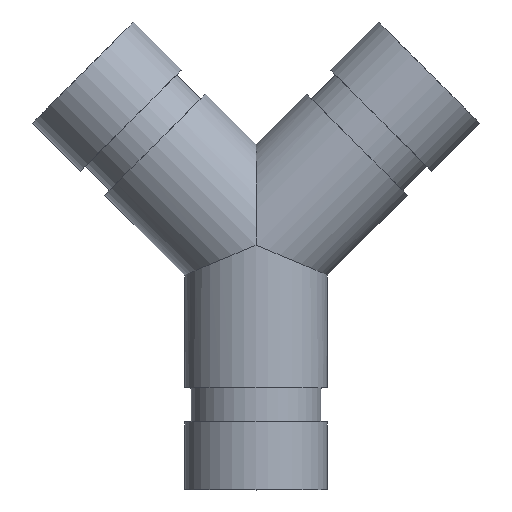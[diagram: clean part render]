
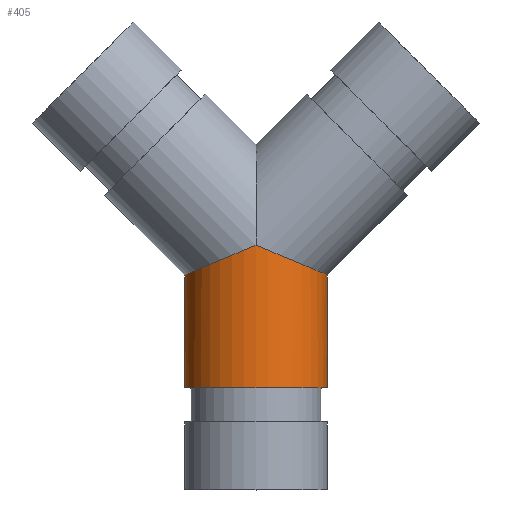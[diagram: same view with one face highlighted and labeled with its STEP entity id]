
A CAD part, top view. The second image highlights one B-rep face of the part: STEP entity #405.
In plain terms, the highlighted cylindrical face has radius 16.701 mm (diameter 33.401 mm), a full revolution.
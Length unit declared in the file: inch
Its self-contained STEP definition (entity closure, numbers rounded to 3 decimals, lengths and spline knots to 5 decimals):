
#81=FACE_OUTER_BOUND('',#109,.T.);
#109=EDGE_LOOP('',(#342,#343,#344,#345,#346,#347));
#119=ELLIPSE('',#471,0.71167,0.6575);
#120=ELLIPSE('',#472,0.71167,0.6575);
#123=ELLIPSE('',#481,0.71167,0.6575);
#135=LINE('',#753,#147);
#147=VECTOR('',#621,0.6575);
#153=CIRCLE('',#440,0.6575);
#183=VERTEX_POINT('',#676);
#202=VERTEX_POINT('',#730);
#204=VERTEX_POINT('',#733);
#205=VERTEX_POINT('',#736);
#219=EDGE_CURVE('',#183,#183,#153,.T.);
#244=EDGE_CURVE('',#204,#202,#119,.T.);
#246=EDGE_CURVE('',#205,#204,#120,.T.);
#254=EDGE_CURVE('',#205,#202,#123,.T.);
#255=EDGE_CURVE('',#183,#204,#135,.T.);
#342=ORIENTED_EDGE('',*,*,#219,.T.);
#343=ORIENTED_EDGE('',*,*,#255,.T.);
#344=ORIENTED_EDGE('',*,*,#244,.T.);
#345=ORIENTED_EDGE('',*,*,#254,.F.);
#346=ORIENTED_EDGE('',*,*,#246,.T.);
#347=ORIENTED_EDGE('',*,*,#255,.F.);
#363=CYLINDRICAL_SURFACE('',#482,0.6575);
#405=ADVANCED_FACE('',(#81),#363,.T.);
#440=AXIS2_PLACEMENT_3D('',#677,#526,#527);
#471=AXIS2_PLACEMENT_3D('',#734,#593,#594);
#472=AXIS2_PLACEMENT_3D('',#737,#596,#597);
#481=AXIS2_PLACEMENT_3D('',#751,#617,#618);
#482=AXIS2_PLACEMENT_3D('',#752,#619,#620);
#526=DIRECTION('center_axis',(0.,1.,0.));
#527=DIRECTION('ref_axis',(1.,0.,0.));
#593=DIRECTION('center_axis',(0.383,-0.924,0.));
#594=DIRECTION('ref_axis',(0.924,0.383,0.));
#596=DIRECTION('center_axis',(0.383,-0.924,0.));
#597=DIRECTION('ref_axis',(0.924,0.383,0.));
#617=DIRECTION('center_axis',(0.383,0.924,0.));
#618=DIRECTION('ref_axis',(0.924,-0.383,0.));
#619=DIRECTION('center_axis',(0.,-1.,0.));
#620=DIRECTION('ref_axis',(1.,0.,0.));
#621=DIRECTION('',(0.,1.,0.));
#676=CARTESIAN_POINT('',(-0.6575,-1.312,0.));
#677=CARTESIAN_POINT('Origin',(0.,-1.312,0.));
#730=CARTESIAN_POINT('',(0.,0.,-0.6575));
#733=CARTESIAN_POINT('',(-0.6575,-0.27235,0.));
#734=CARTESIAN_POINT('Origin',(0.,0.,0.));
#736=CARTESIAN_POINT('',(0.,0.,0.6575));
#737=CARTESIAN_POINT('Origin',(0.,0.,0.));
#751=CARTESIAN_POINT('Origin',(0.,0.,0.));
#752=CARTESIAN_POINT('Origin',(0.,0.,0.));
#753=CARTESIAN_POINT('',(-0.6575,0.,0.));
